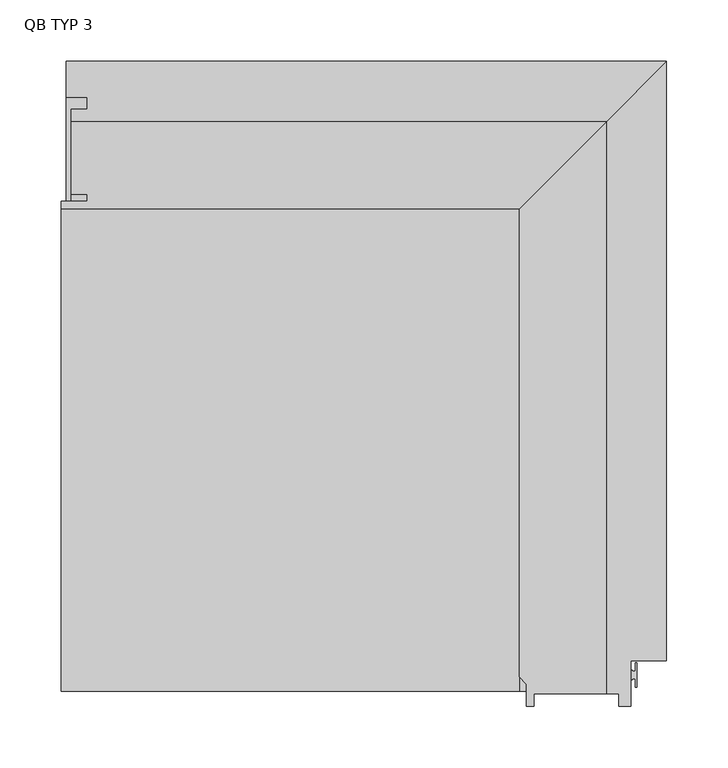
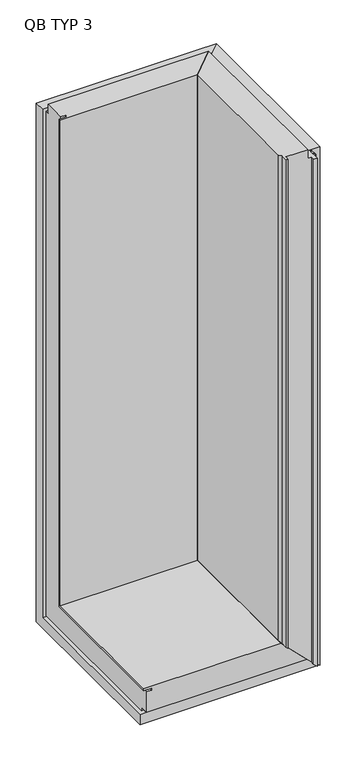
"""IFC4 building model written with IfcOpenShell, lengths in millimetres: plate geometry, TR_C_V_QBISS_Corner_3D_edge cut_A : QB TYP 3."""

from ifc_helpers import new_model, si_unit, frame, origin, place, context, project, spatial, polyline, outline, extrude, faceted_brep, source, transform, mapped, element, save


def qb_typ_3_c6da5b13(model_context):
    return source(origin(), model_context, "Body", "SolidModel", [
        extrude(outline(polyline([(218.5000002, -509.5), (217.0001685, -509.5), (217.0001685, -502.7023593), (214.5001709, -502.7023593), (214.5001709, -503.5023593), (213.7001573, -503.5023593), (213.7001573, -495.5023028), (214.5001709, -495.5023028), (214.5001709, -496.3023028), (217.0001685, -496.3023028), (217.0001685, -489.5), (218.5000002, -489.5), (218.5000002, -509.5)])), frame((0.0, 0.0, 29.0), z_axis=(0.0, 0.0, 1.0), x_axis=(1.0, 0.0, 0.0)), (0.0, 0.0, 1.0), 1458.3),
        faceted_brep([(193.5000002, -49.0, 1487.3), (-242.5000002, -49.0, 1487.3), (-242.5000002, -49.0, 1512.4), (193.5000002, -49.0, 1512.4), (242.5000002, 0.0, 1487.3), (193.5000002, 0.0, 1487.3), (-246.5000002, 0.0, 1487.3), (-246.5000002, -29.0, 1487.3), (-229.5000002, -29.0, 1487.3), (-229.5000002, -39.0, 1487.3), (-242.5000002, -39.0, 1487.3), (-242.5000002, -108.0, 1512.4), (-229.5000002, -108.0, 1512.4), (-229.5000002, -114.0, 1512.4), (-250.5000002, -114.0, 1512.4), (-250.5000002, -120.0, 1512.4), (122.5000002, -120.0, 1512.4), (242.5000002, 0.0, 0.0), (-246.5000002, 0.0, 0.0), (-246.5000002, -487.3, 0.0), (-246.5000002, -487.3, 29.0), (-246.5000002, -29.0, 29.0), (-229.5000002, -29.0, 29.0), (-229.5000002, -487.3, 29.0), (-229.5000002, -487.3, 39.0), (-229.5000002, -39.0, 39.0), (-242.5000002, -39.0, 39.0), (-242.5000002, -512.4, 108.0), (-242.5000002, -108.0, 108.0), (-242.5000002, -487.3, 39.0), (-242.5000002, -487.3, 49.0), (-242.5000002, -512.4, 49.0), (-229.5000002, -108.0, 108.0), (-229.5000002, -512.4, 108.0), (-229.5000002, -512.4, 114.0), (-229.5000002, -114.0, 114.0), (-250.5000002, -114.0, 114.0), (-250.5000002, -512.4, 114.0), (-250.5000002, -512.4, 120.0), (-250.5000002, -120.0, 120.0), (122.5000002, -120.0, 120.0), (193.5000002, -512.4, 49.0), (122.5000002, -512.4, 120.0), (242.5000002, -487.3, 0.0), (193.5000002, -487.3, 49.0)], [[[0, 1, 2, 3]], [[1, 0, 4, 5, 6, 7, 8, 9, 10]], [[11, 12, 13, 14, 15, 16, 3, 2]], [[17, 18, 6, 5, 4]], [[6, 18, 19, 20, 21, 7]], [[21, 22, 8, 7]], [[8, 22, 23, 24, 25, 9]], [[25, 26, 10, 9]], [[27, 28, 11, 2, 1, 10, 26, 29, 30, 31]], [[12, 11, 28, 32]], [[13, 12, 32, 33, 34, 35]], [[14, 13, 35, 36]], [[15, 14, 36, 37, 38, 39]], [[16, 15, 39, 40]], [[34, 33, 27, 31, 41, 42, 38, 37]], [[18, 17, 43, 19]], [[22, 21, 20, 23]], [[26, 25, 24, 29]], [[28, 27, 33, 32]], [[35, 34, 37, 36]], [[39, 38, 42, 40]], [[44, 30, 29, 24, 23, 20, 19, 43]], [[30, 44, 41, 31]], [[16, 40, 17, 4, 0, 3]], [[40, 42, 41, 44, 43, 17]]]),
        faceted_brep([(122.5000002, -501.0, 1512.4), (128.5000002, -507.0, 1512.4), (128.5000002, -525.0, 1512.4), (134.5000002, -525.0, 1512.4), (134.5000002, -515.0, 1512.4), (193.5000002, -515.0, 1512.4), (193.5000002, -49.0, 1512.4), (122.5000002, -120.0, 1512.4), (122.5000002, -501.0, 120.0), (128.5000002, -507.0, 114.0), (128.5000002, -525.0, 114.0), (134.5000002, -525.0, 108.0), (134.5000002, -515.0, 108.0), (203.5000002, -515.0, 39.0), (203.5000002, -515.0, 1487.3), (193.5000002, -515.0, 1487.3), (203.5000002, -525.0, 39.0), (203.5000002, -525.0, 1487.3), (213.5000002, -525.0, 29.0), (213.5000002, -525.0, 1487.3), (213.5000002, -488.0, 29.0), (213.5000002, -488.0, 1487.3), (242.5000002, -488.0, 0.0), (242.5000002, -488.0, 1487.3), (242.5000002, 0.0, 0.0), (242.5000002, 0.0, 1487.3), (122.5000002, -120.0, 120.0), (193.5000002, -49.0, 1487.3)], [[[0, 1, 2, 3, 4, 5, 6, 7]], [[1, 0, 8, 9]], [[2, 1, 9, 10]], [[3, 2, 10, 11]], [[4, 3, 11, 12]], [[4, 12, 13, 14, 15, 5]], [[13, 16, 17, 14]], [[16, 18, 19, 17]], [[18, 20, 21, 19]], [[20, 22, 23, 21]], [[22, 24, 25, 23]], [[26, 7, 6, 27, 25, 24]], [[0, 7, 26, 8]], [[9, 8, 26, 24, 22, 20, 18, 16, 13, 12, 11, 10]], [[15, 27, 6, 5]], [[27, 15, 14, 17, 19, 21, 23, 25]]]),
    ])


if __name__ == "__main__":
    model = new_model("IFC4")
    model_context = context("Model", 3, world=origin())
    ifc_project = project(units=[si_unit("LENGTHUNIT", "METRE", prefix="MILLI")], contexts=[model_context])
    site = spatial("IfcSite", under=ifc_project)
    building = spatial("IfcBuilding", under=site)
    placement = place(None, origin())
    qb_typ_3_shape = qb_typ_3_c6da5b13(model_context)
    element("IfcPlate", 1, ObjectType="TR_C_V_QBISS_Corner_3D_edge cut_A : QB TYP 3", at=placement, inside=building, context=model_context, shape_type="MappedRepresentation", body=[
        mapped(qb_typ_3_shape, transform((0.0, 0.0, 0.0), x_axis=(1.0, 0.0, 0.0), y_axis=(0.0, 1.0, 0.0), z_axis=(0.0, 0.0, 1.0))),
    ])
    save(model, "model.ifc")
